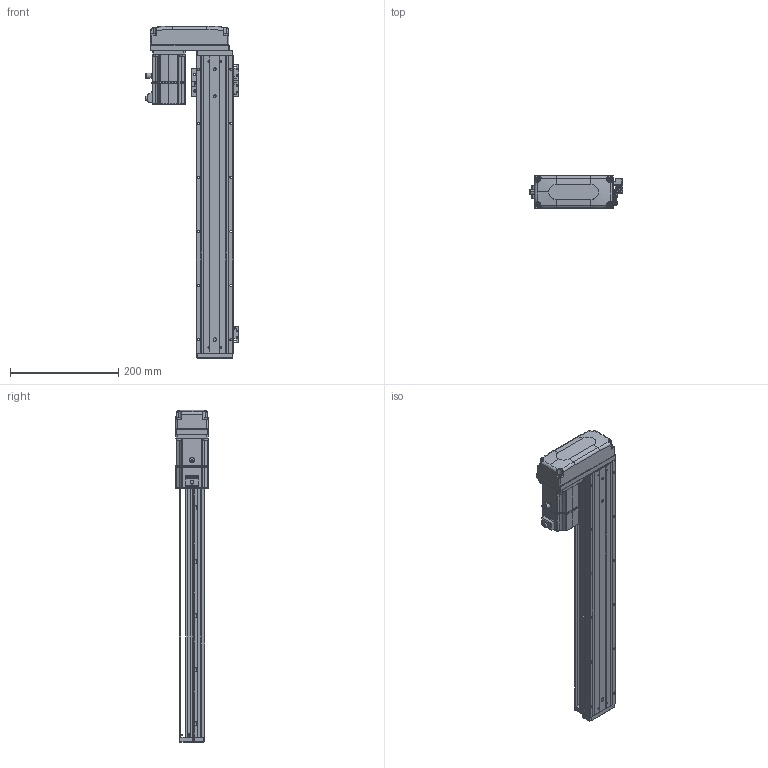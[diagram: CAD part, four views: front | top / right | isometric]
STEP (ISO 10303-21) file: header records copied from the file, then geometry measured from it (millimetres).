
FILE_DESCRIPTION (( 'STEP AP203' ), '1' );
FILE_NAME ('KTHA60-450-BR-M20-C4L.step', '2022-12-16T01:39:19', ( '微软用户' ), ( '微软中国' ), 'SwSTEP 2.0', 'SolidWorks 2020', '' );
FILE_SCHEMA (( 'CONFIG_CONTROL_DESIGN' ));
Length unit declared in the file: millimetre
Products named in the file (17): EE_SX911P_R; KTHA60-002; CTHA60-017; BTH80-026; KTHA60-001_550; CTHA60-021; CTHA60-006-2_CTHA60-006-2; KTHA60-004; GBT 70.1-M4×16; _X2_4E0983F1_X0_200W_1; KTHA60-005; GBT77-2000M3-3; KTHA60-450-BR-M20-C4L; GB¨uT 70.2-M3¡Á5_M3¡Á6; GBT 70.1-M3℅6; GBT 70.3-M3℅6; CTHA60-016
Assembly tree (51 placements, depth 2):
  KTHA60-450-BR-M20-C4L
    KTHA60-001_550
    KTHA60-004
    KTHA60-005
    GB¨uT 70.2-M3¡Á5_M3¡Á6  x6
    GBT 70.3-M3℅6  x4
    EE_SX911P_R  x3
    CTHA60-017  x3
    CTHA60-021  x2
    GBT 70.1-M4×16  x8
    GBT77-2000M3-3  x6
    GBT 70.1-M3℅6  x10
    CTHA60-016  x2
    KTHA60-002
    BTH80-026
    CTHA60-006-2_CTHA60-006-2
    _X2_4E0983F1_X0_200W_1
Bounding box: 173.02 x 62.42 x 614 mm (x, y, z)
Volume: 1401564.2 mm3; surface area: 370414.4 mm2
Topology: 54 solids, 54 shells, 2428 faces, 5773 edges, 3550 vertices
Faces by surface type: plane 1285, cylinder 644, cone 282, bspline 109, torus 92, sphere 16
Entity records: 44886 total; most frequent: CARTESIAN_POINT 10482, ORIENTED_EDGE 6594, DIRECTION 6588, EDGE_CURVE 3297, AXIS2_PLACEMENT_3D 2275, VERTEX_POINT 2059, VECTOR 2038, LINE 2038
